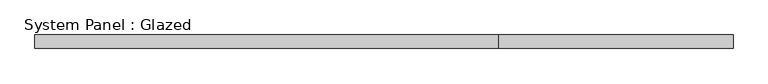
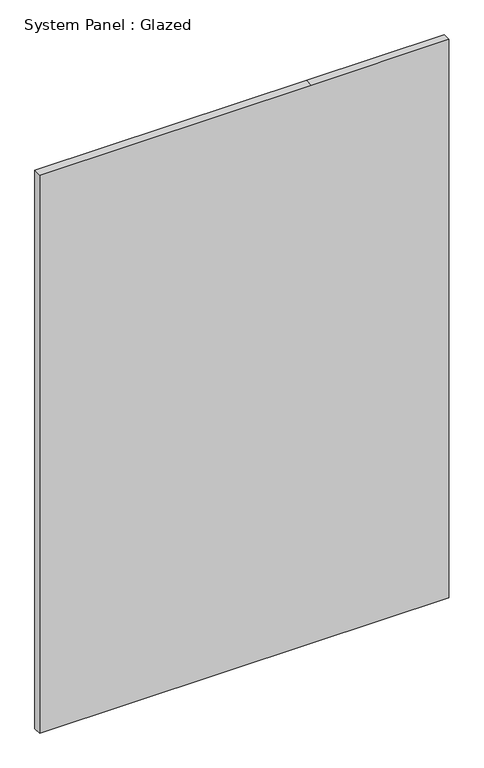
"""IFC4 building model written with IfcOpenShell, lengths in millimetres: plate geometry, System Panel : Glazed."""

import ifcopenshell
import ifcopenshell.guid

model = None  # the IFC model being written
_history = None  # IfcOwnerHistory: only IFC2X3 demands one
_inside = {}  # id of a spatial element -> (the spatial element, [elements in it])
_under = {}  # id of a project, library or spatial element -> (it, [spatial elements below it])
_declared = {}  # id of a project -> (the project, [libraries it declares])
_typed = {}  # id of a type object -> (the type object, [elements of that type])
_made_of = {}  # id of a material, layer set ... -> (it, [elements and type objects made of it])


def new_model(schema):
    """Start an empty IFC model of exactly this schema.

    Asked for "IFC4X3", IfcOpenShell would pick the latest addendum, in which some entities
    have other attributes; the version numbers below select the first issue.
    IFC2X3 requires an IfcOwnerHistory on every rooted entity: one is made here for all.
    """
    global model, _history
    if schema == "IFC4X3":
        model = ifcopenshell.file(schema_version=(4, 3, 0, 0))
    else:
        model = ifcopenshell.file(schema=schema)
    _inside.clear()
    _under.clear()
    _declared.clear()
    _typed.clear()
    _made_of.clear()
    _history = None
    if model.schema == "IFC2X3":
        org = make("IfcOrganization", Name="unknown")
        user = make(
            "IfcPersonAndOrganization",
            ThePerson=make("IfcPerson", FamilyName="unknown"),
            TheOrganization=org,
        )
        app = make(
            "IfcApplication",
            ApplicationDeveloper=org,
            Version="unknown",
            ApplicationFullName="unknown",
            ApplicationIdentifier="unknown",
        )
        _history = make(
            "IfcOwnerHistory",
            OwningUser=user,
            OwningApplication=app,
            ChangeAction="ADDED",
            CreationDate=0,
        )
    return model


def make(cls, **values):
    """One entity of the class cls with the attributes given. An attribute that is None is left unset."""
    return model.create_entity(
        cls, **{name: value for name, value in values.items() if value is not None}
    )


def rooted(cls, **values):
    """An entity with a GlobalId (a new one), such as an element, a storey or a relation."""
    return make(cls, GlobalId=ifcopenshell.guid.new(), OwnerHistory=_history, **values)


def si_unit(unit_type, name, prefix=None):
    """IfcSIUnit, for example si_unit("LENGTHUNIT", "METRE", prefix="MILLI")."""
    return make("IfcSIUnit", UnitType=unit_type, Prefix=prefix, Name=name)


def assignment(units):
    """IfcUnitAssignment: the units of a project."""
    return None if units is None else make("IfcUnitAssignment", Units=units)


def point(xyz):
    """IfcCartesianPoint."""
    return None if xyz is None else make("IfcCartesianPoint", Coordinates=xyz)


def direction(xyz):
    """IfcDirection."""
    return None if xyz is None else make("IfcDirection", DirectionRatios=xyz)


def frame(location, z_axis=None, x_axis=None):
    """IfcAxis2Placement3D, a coordinate frame: its origin and axes. An axis left out is left unset."""
    return make(
        "IfcAxis2Placement3D",
        Location=point(location),
        Axis=direction(z_axis),
        RefDirection=direction(x_axis),
    )


def origin():
    """The frame at (0, 0, 0) with its axes left unset."""
    return frame((0.0, 0.0, 0.0))


def place(relative_to, where):
    """IfcLocalPlacement: puts the frame where relative to a parent placement (None: the world)."""
    return make(
        "IfcLocalPlacement", PlacementRelTo=relative_to, RelativePlacement=where
    )


def context(
    kind, dimensions, precision=None, world=None, true_north=None, identifier=None
):
    """IfcGeometricRepresentationContext, for example the 3D "Model" context."""
    return make(
        "IfcGeometricRepresentationContext",
        ContextIdentifier=identifier,
        ContextType=kind,
        CoordinateSpaceDimension=dimensions,
        Precision=precision,
        WorldCoordinateSystem=world,
        TrueNorth=true_north,
    )


def project(units=None, contexts=None):
    """IfcProject with its units and contexts."""
    return rooted(
        "IfcProject",
        Name="project",
        RepresentationContexts=contexts,
        UnitsInContext=assignment(units),
    )


def spatial(cls, under=None, at=None, **own):
    """A site, building, storey or space (cls), placed at a placement, below another one or the project."""
    s = rooted(cls, ObjectPlacement=at, **own)
    if under is not None:
        _under.setdefault(under.id(), (under, []))[1].append(s)
    return s


def polyline(points):
    """IfcPolyline through the points."""
    return make("IfcPolyline", Points=[point(p) for p in points])


def outline(outer, holes=None, kind="AREA"):
    """IfcArbitraryClosedProfileDef: a profile drawn as a closed curve; with holes, ...WithVoids."""
    if holes is None:
        return make("IfcArbitraryClosedProfileDef", ProfileType=kind, OuterCurve=outer)
    return make(
        "IfcArbitraryProfileDefWithVoids",
        ProfileType=kind,
        OuterCurve=outer,
        InnerCurves=holes,
    )


def extrude(swept, where, along, depth):
    """IfcExtrudedAreaSolid: the profile swept, set in the frame where, extruded along a direction by depth."""
    return make(
        "IfcExtrudedAreaSolid",
        SweptArea=swept,
        Position=where,
        ExtrudedDirection=direction(along),
        Depth=depth,
    )


def shape(context_of_items, identifier, shape_type, items):
    """IfcShapeRepresentation: the items that make up one representation, for example the "Body"."""
    return make(
        "IfcShapeRepresentation",
        ContextOfItems=context_of_items,
        RepresentationIdentifier=identifier,
        RepresentationType=shape_type,
        Items=items,
    )


def source(mapping_origin, context_of_items, identifier, shape_type, items):
    """IfcRepresentationMap: a shape defined once, which mapped items show again and again."""
    return make(
        "IfcRepresentationMap",
        MappingOrigin=mapping_origin,
        MappedRepresentation=shape(context_of_items, identifier, shape_type, items),
    )


def transform(
    local_origin,
    x_axis=None,
    y_axis=None,
    z_axis=None,
    scale=None,
    scale2=None,
    scale3=None,
    uniform=True,
):
    """IfcCartesianTransformationOperator3D, or its non-uniform kind. x_axis, y_axis, z_axis: its Axis1, 2, 3."""
    if uniform:
        return make(
            "IfcCartesianTransformationOperator3D",
            Axis1=direction(x_axis),
            Axis2=direction(y_axis),
            LocalOrigin=point(local_origin),
            Scale=scale,
            Axis3=direction(z_axis),
        )
    return make(
        "IfcCartesianTransformationOperator3DnonUniform",
        Axis1=direction(x_axis),
        Axis2=direction(y_axis),
        LocalOrigin=point(local_origin),
        Scale=scale,
        Axis3=direction(z_axis),
        Scale2=scale2,
        Scale3=scale3,
    )


def mapped(mapping_source, mapping_target):
    """IfcMappedItem: shows the shape of a source again, moved by a transform."""
    return make(
        "IfcMappedItem", MappingSource=mapping_source, MappingTarget=mapping_target
    )


def made_of(thing, what):
    """Note that an element or type object is made of a material, layer set ...; save() writes the relation."""
    if what is not None:
        _made_of.setdefault(what.id(), (what, []))[1].append(thing)
    return thing


def element(
    cls,
    number,
    at=None,
    inside=None,
    cuts=None,
    type_object=None,
    material=None,
    context=None,
    identifier="Body",
    shape_type=None,
    held_by="IfcProductDefinitionShape",
    body=None,
    shapes=None,
    **own,
):
    """One element of the class cls, such as IfcWall. Its Tag is "e" and its number.

    at: its placement. inside: the storey or other place that contains it. cuts: it is an
    opening in that element (IfcRelVoidsElement). A single representation is given by context,
    identifier, shape_type and body (its items); several are given by shapes. held_by: the class
    of the entity that holds the representations. save() writes the other relations.
    """
    e = rooted(cls, Tag="e%d" % number, ObjectPlacement=at, **own)
    if body is not None:
        shapes = [shape(context, identifier, shape_type, body)]
    if shapes is not None:
        e.Representation = make(held_by, Representations=shapes)
    if inside is not None:
        _inside.setdefault(inside.id(), (inside, []))[1].append(e)
    if cuts is not None:
        rooted(
            "IfcRelVoidsElement", RelatingBuildingElement=cuts, RelatedOpeningElement=e
        )
    if type_object is not None:
        _typed.setdefault(type_object.id(), (type_object, []))[1].append(e)
    return made_of(e, material)


def aggregate(whole, parts):
    """IfcRelAggregates: a whole, such as a stair, and the parts it consists of."""
    return rooted("IfcRelAggregates", RelatingObject=whole, RelatedObjects=parts)


def save(model, path):
    """Write the relations noted so far, then the file.

    IfcRelAggregates (storeys below a building ...), IfcRelContainedInSpatialStructure (elements
    in a storey), IfcRelDefinesByType, IfcRelAssociatesMaterial and IfcRelDeclares: one each for
    every whole, place, type object, material and project.
    """
    for whole, parts in _under.values():
        aggregate(whole, parts)
    for where, things in _inside.values():
        rooted(
            "IfcRelContainedInSpatialStructure",
            RelatedElements=things,
            RelatingStructure=where,
        )
    for kind, things in _typed.values():
        rooted("IfcRelDefinesByType", RelatedObjects=things, RelatingType=kind)
    for what, things in _made_of.values():
        rooted("IfcRelAssociatesMaterial", RelatedObjects=things, RelatingMaterial=what)
    for by, libraries in _declared.values():
        rooted("IfcRelDeclares", RelatingContext=by, RelatedDefinitions=libraries)
    model.write(path)


def system_panel_glazed_306ee6b9(model_context):
    return source(origin(), model_context, "Body", "SweptSolid", [
        extrude(outline(polyline([(0.0, -643.17875), (0.0, 210.97875), (0.0, 643.17875), (1854.4, 643.17875), (1854.4, 210.97875), (1854.4, -643.17875), (0.0, -643.17875)])), frame((0.0, 24.5, 0.0), z_axis=(0.0, 1.0, 0.0), x_axis=(0.0, 0.0, 1.0)), (0.0, 0.0, 1.0), 25.0),
    ])


if __name__ == "__main__":
    model = new_model("IFC4")
    model_context = context("Model", 3, world=origin())
    ifc_project = project(units=[si_unit("LENGTHUNIT", "METRE", prefix="MILLI")], contexts=[model_context])
    site = spatial("IfcSite", under=ifc_project)
    building = spatial("IfcBuilding", under=site)
    placement = place(None, origin())
    system_panel_glazed_shape = system_panel_glazed_306ee6b9(model_context)
    element("IfcPlate", 1, ObjectType="System Panel : Glazed", at=placement, inside=building, context=model_context, shape_type="MappedRepresentation", body=[
        mapped(system_panel_glazed_shape, transform((0.0, 0.0, 0.0), x_axis=(1.0, 0.0, 0.0), y_axis=(0.0, 1.0, 0.0), z_axis=(0.0, 0.0, 1.0))),
    ])
    save(model, "model.ifc")
